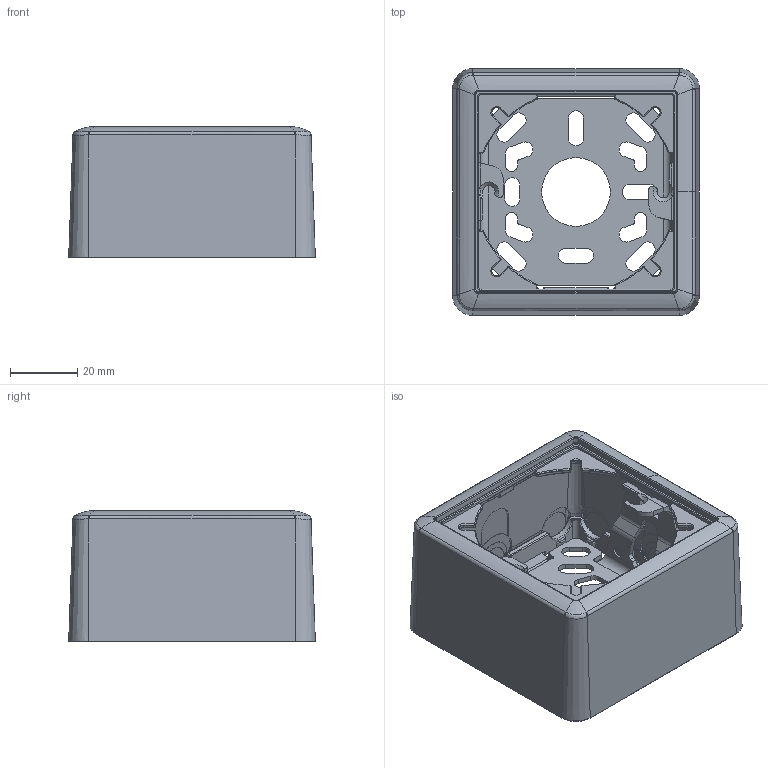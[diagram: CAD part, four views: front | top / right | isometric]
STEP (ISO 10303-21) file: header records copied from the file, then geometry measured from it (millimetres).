
FILE_DESCRIPTION((''),'2;1');
FILE_NAME('0KOMBFX391X161_ASM','2022-05-19T20:16:37',('SESA231899'),('Schneider-Electric'),'CREO PARAMETRIC BY PTC INC, 2019471','CREO PARAMETRIC BY PTC INC, 2019471','');
FILE_SCHEMA(('AUTOMOTIVE_DESIGN { 1 0 10303 214 1 1 1 1 }'));
Products named in the file (5): 211069; 211068; 211063; GEX2651101_ASM; 0KOMBFX391X161_ASM
Assembly tree (4 placements, depth 3):
  0KOMBFX391X161_ASM
    GEX2651101_ASM
      211069
      211068
      211063
Bounding box: 73.6 x 73.6 x 39 mm (x, y, z)
Volume: 32332.5 mm3; surface area: 41403.9 mm2
Topology: 3 solids, 3 shells, 1730 faces, 4454 edges, 2727 vertices
Faces by surface type: plane 669, cylinder 480, bspline 358, cone 130, torus 45, sphere 44, extrusion 4
Entity records: 70369 total; most frequent: CARTESIAN_POINT 31168, ORIENTED_EDGE 8908, DIRECTION 7005, EDGE_CURVE 4454, VERTEX_POINT 2727, AXIS2_PLACEMENT_3D 2341, VECTOR 2323, LINE 2319
